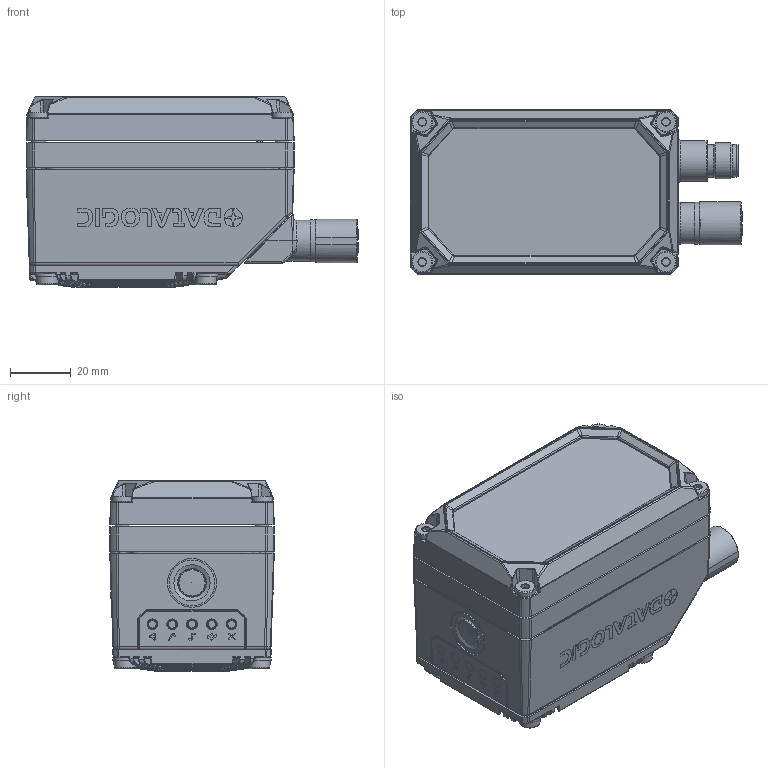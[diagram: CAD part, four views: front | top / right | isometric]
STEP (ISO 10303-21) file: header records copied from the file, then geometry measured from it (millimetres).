
FILE_DESCRIPTION(/* description */ (''),/* implementation_level */ '2;1');
FILE_NAME(/* name */ 'MC000481_00_1-M320 OFF. SIS _specification_ MC000481-00-dwg4_.stp',/* time_stamp */ '2020-11-24T13:22:17+01:00',/* author */ (''),/* organization */ (''),/* preprocessor_version */ 'ST-DEVELOPER v16.7',/* originating_system */ 'SIEMENS PLM Software NX 12.0',/* authorisation */ '');
FILE_SCHEMA (('AUTOMOTIVE_DESIGN { 1 0 10303 214 3 1 1 1 }'));
Products named in the file (1): gesp2CA8B4E6aov2
Bounding box: 108.95 x 54 x 62.5 mm (x, y, z)
Volume: 265689.8 mm3; surface area: 75176.3 mm2
Topology: 80 solids, 81 shells, 3503 faces, 8204 edges, 4881 vertices
Faces by surface type: cylinder 1170, plane 1152, bspline 487, cone 309, torus 212, sphere 98, extrusion 75
Full cylindrical faces by diameter (mm): 0.6 x34, 1.8 x2, 2 x4, 2.5 x19, 2.9 x5, 3 x8, 3.2 x7, 3.3 x9, 3.5 x5, 3.95 x4, 4.1 x4, 4.3 x4, 4.4 x4, 4.5 x4, 5 x8, 5.4 x8, 6.9 x4, 7 x4, 8 x4, 8.8 x1, 9 x1, 9.1 x1, 9.5 x2, 9.9 x1, 10.5 x1, 10.7 x1, 10.8 x1, 11.85 x1, 13.5 x2, 13.8 x2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
Entity records: 122324 total; most frequent: CARTESIAN_POINT 41512, DIRECTION 16130, ORIENTED_EDGE 15216, EDGE_CURVE 7608, AXIS2_PLACEMENT_3D 6429, VERTEX_POINT 4765, EDGE_LOOP 4075, ADVANCED_FACE 3503
